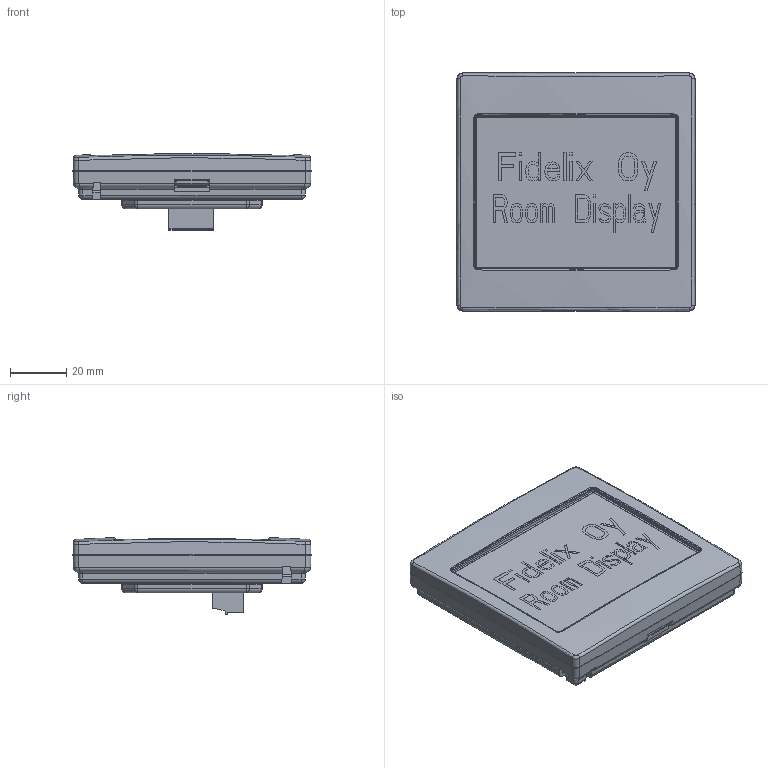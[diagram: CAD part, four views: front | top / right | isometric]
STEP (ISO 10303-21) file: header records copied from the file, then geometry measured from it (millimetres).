
FILE_DESCRIPTION(/* description */ (''),/* implementation_level */ '2;1');
FILE_NAME(/* name */ 'C:/Temp/STEP/roomDisplay_V152_assy.step',/* time_stamp */ '2020-04-03T14:10:22+03:00',/* author */ (''),/* organization */ (''),/* preprocessor_version */ 'ST-DEVELOPER v18',/* originating_system */ 'Autodesk Translation Framework v8.12.0.6',/* authorisation */ '');
FILE_SCHEMA (('AUTOMOTIVE_DESIGN { 1 0 10303 214 3 1 1 }'));
Products named in the file (1): roomDisplay_V152_assy
Bounding box: 85 x 85 x 27.42 mm (x, y, z)
Volume: 52016.9 mm3; surface area: 41582.3 mm2
Topology: 3 solids, 3 shells, 1256 faces, 3442 edges, 2216 vertices
Faces by surface type: plane 874, cylinder 215, bspline 103, sphere 28, cone 24, torus 12
Full cylindrical faces by diameter (mm): 0.457 x1, 2.8 x4, 2.9 x4
Entity records: 51985 total; most frequent: CARTESIAN_POINT 19291, ORIENTED_EDGE 6844, DIRECTION 6062, EDGE_CURVE 3422, LINE 2594, VECTOR 2594, VERTEX_POINT 2216, AXIS2_PLACEMENT_3D 1734
